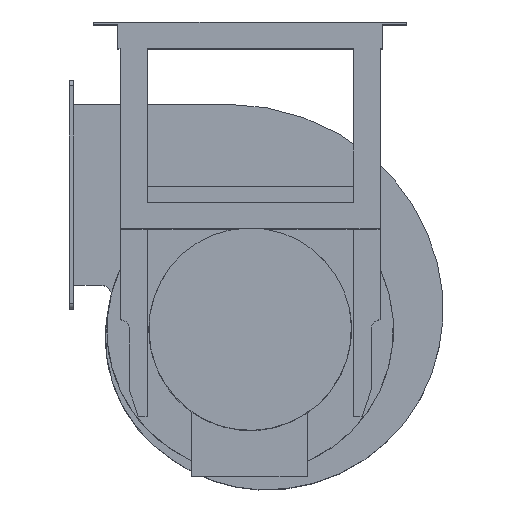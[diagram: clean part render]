
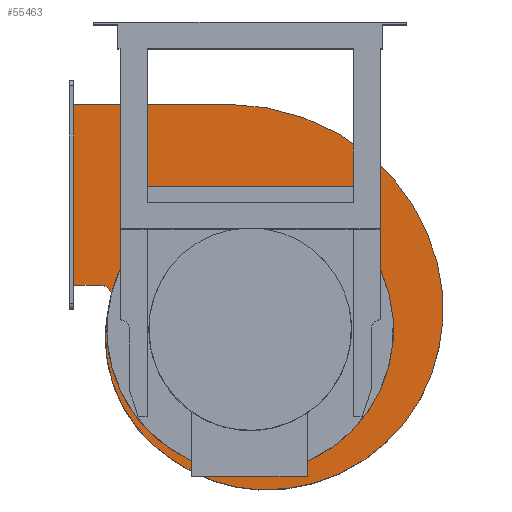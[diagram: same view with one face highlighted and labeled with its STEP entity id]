
A CAD part, top view. The second image highlights one B-rep face of the part: STEP entity #55463.
In plain terms, the highlighted planar face has unit normal (0, 0, 1).
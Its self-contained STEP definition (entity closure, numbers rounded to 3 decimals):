
#1458=CIRCLE('',#57948,8.);
#1459=CIRCLE('',#57951,20.);
#1460=CIRCLE('',#57954,20.);
#1461=CIRCLE('',#57957,8.);
#1462=CIRCLE('',#57959,160.);
#1463=CIRCLE('',#57960,160.);
#1465=CIRCLE('',#57963,11.);
#1467=CIRCLE('',#57966,161.986);
#1468=CIRCLE('',#57968,179.486);
#1470=CIRCLE('',#57971,197.486);
#1472=CIRCLE('',#57974,215.486);
#1474=CIRCLE('',#57977,232.986);
#1476=CIRCLE('',#57980,250.486);
#5744=PLANE('',#58041);
#8309=FACE_OUTER_BOUND('',#11860,.T.);
#11860=EDGE_LOOP('',(#52432,#52433,#52434,#52435,#52436,#52437,#52438,#52439,
#52440,#52441,#52442,#52443,#52444,#52445,#52446,#52447,#52448,#52449,#52450));
#12460=LINE('',#81865,#18764);
#18119=LINE('',#94021,#24423);
#18122=LINE('',#94029,#24426);
#18126=LINE('',#94038,#24430);
#18164=LINE('',#94210,#24468);
#18166=LINE('',#94213,#24470);
#18764=VECTOR('',#59094,10.);
#24423=VECTOR('',#69221,10.);
#24426=VECTOR('',#69230,10.);
#24430=VECTOR('',#69240,10.);
#24468=VECTOR('',#69448,10.);
#24470=VECTOR('',#69452,10.);
#26098=VERTEX_POINT('',#81862);
#26099=VERTEX_POINT('',#81864);
#30068=VERTEX_POINT('',#94004);
#30070=VERTEX_POINT('',#94007);
#30072=VERTEX_POINT('',#94014);
#30073=VERTEX_POINT('',#94015);
#30074=VERTEX_POINT('',#94020);
#30075=VERTEX_POINT('',#94024);
#30076=VERTEX_POINT('',#94028);
#30077=VERTEX_POINT('',#94032);
#30078=VERTEX_POINT('',#94036);
#30079=VERTEX_POINT('',#94040);
#30082=VERTEX_POINT('',#94051);
#30084=VERTEX_POINT('',#94057);
#30085=VERTEX_POINT('',#94061);
#30087=VERTEX_POINT('',#94067);
#30089=VERTEX_POINT('',#94073);
#30091=VERTEX_POINT('',#94079);
#30093=VERTEX_POINT('',#94085);
#31526=EDGE_CURVE('',#26098,#26099,#12460,.T.);
#37486=EDGE_CURVE('',#30072,#30073,#1458,.T.);
#37489=EDGE_CURVE('',#30074,#30073,#18119,.T.);
#37491=EDGE_CURVE('',#30075,#30074,#1459,.T.);
#37493=EDGE_CURVE('',#30076,#30075,#18122,.T.);
#37495=EDGE_CURVE('',#30077,#30076,#1460,.T.);
#37498=EDGE_CURVE('',#30078,#30077,#18126,.T.);
#37499=EDGE_CURVE('',#30078,#30079,#1461,.T.);
#37501=EDGE_CURVE('',#30068,#30079,#1462,.T.);
#37502=EDGE_CURVE('',#30072,#30070,#1463,.T.);
#37505=EDGE_CURVE('',#30068,#30082,#1465,.T.);
#37509=EDGE_CURVE('',#30084,#30070,#1467,.T.);
#37510=EDGE_CURVE('',#30085,#30084,#1468,.T.);
#37513=EDGE_CURVE('',#30087,#30085,#1470,.T.);
#37516=EDGE_CURVE('',#30089,#30087,#1472,.T.);
#37519=EDGE_CURVE('',#30091,#30089,#1474,.T.);
#37522=EDGE_CURVE('',#30093,#30091,#1476,.T.);
#37582=EDGE_CURVE('',#26099,#30093,#18164,.T.);
#37584=EDGE_CURVE('',#30082,#26098,#18166,.T.);
#52432=ORIENTED_EDGE('',*,*,#31526,.F.);
#52433=ORIENTED_EDGE('',*,*,#37584,.F.);
#52434=ORIENTED_EDGE('',*,*,#37505,.F.);
#52435=ORIENTED_EDGE('',*,*,#37501,.T.);
#52436=ORIENTED_EDGE('',*,*,#37499,.F.);
#52437=ORIENTED_EDGE('',*,*,#37498,.T.);
#52438=ORIENTED_EDGE('',*,*,#37495,.T.);
#52439=ORIENTED_EDGE('',*,*,#37493,.T.);
#52440=ORIENTED_EDGE('',*,*,#37491,.T.);
#52441=ORIENTED_EDGE('',*,*,#37489,.T.);
#52442=ORIENTED_EDGE('',*,*,#37486,.F.);
#52443=ORIENTED_EDGE('',*,*,#37502,.T.);
#52444=ORIENTED_EDGE('',*,*,#37509,.F.);
#52445=ORIENTED_EDGE('',*,*,#37510,.F.);
#52446=ORIENTED_EDGE('',*,*,#37513,.F.);
#52447=ORIENTED_EDGE('',*,*,#37516,.F.);
#52448=ORIENTED_EDGE('',*,*,#37519,.F.);
#52449=ORIENTED_EDGE('',*,*,#37522,.F.);
#52450=ORIENTED_EDGE('',*,*,#37582,.F.);
#55463=ADVANCED_FACE('',(#8309),#5744,.T.);
#57948=AXIS2_PLACEMENT_3D('',#94016,#69215,#69216);
#57951=AXIS2_PLACEMENT_3D('',#94025,#69225,#69226);
#57954=AXIS2_PLACEMENT_3D('',#94033,#69234,#69235);
#57957=AXIS2_PLACEMENT_3D('',#94041,#69243,#69244);
#57959=AXIS2_PLACEMENT_3D('',#94044,#69248,#69249);
#57960=AXIS2_PLACEMENT_3D('',#94045,#69250,#69251);
#57963=AXIS2_PLACEMENT_3D('',#94052,#69257,#69258);
#57966=AXIS2_PLACEMENT_3D('',#94059,#69265,#69266);
#57968=AXIS2_PLACEMENT_3D('',#94062,#69269,#69270);
#57971=AXIS2_PLACEMENT_3D('',#94068,#69276,#69277);
#57974=AXIS2_PLACEMENT_3D('',#94074,#69283,#69284);
#57977=AXIS2_PLACEMENT_3D('',#94080,#69290,#69291);
#57980=AXIS2_PLACEMENT_3D('',#94086,#69297,#69298);
#58041=AXIS2_PLACEMENT_3D('',#94212,#69450,#69451);
#59094=DIRECTION('',(0.,1.,0.));
#69215=DIRECTION('center_axis',(0.,0.,-1.));
#69216=DIRECTION('ref_axis',(-0.977,-0.211,0.));
#69221=DIRECTION('',(0.,-1.,0.));
#69225=DIRECTION('center_axis',(0.,0.,-1.));
#69226=DIRECTION('ref_axis',(0.,1.,0.));
#69230=DIRECTION('',(1.,0.,0.));
#69234=DIRECTION('center_axis',(0.,0.,-1.));
#69235=DIRECTION('ref_axis',(-1.,0.,0.));
#69240=DIRECTION('',(0.,1.,0.));
#69243=DIRECTION('center_axis',(0.,0.,-1.));
#69244=DIRECTION('ref_axis',(0.977,-0.211,0.));
#69248=DIRECTION('center_axis',(0.,0.,-1.));
#69249=DIRECTION('ref_axis',(-1.,0.,0.));
#69250=DIRECTION('center_axis',(0.,0.,-1.));
#69251=DIRECTION('ref_axis',(-1.,0.,0.));
#69257=DIRECTION('center_axis',(0.,0.,
1.));
#69258=DIRECTION('ref_axis',(0.798,0.603,0.));
#69265=DIRECTION('center_axis',(0.,0.,
-1.));
#69266=DIRECTION('ref_axis',(-0.933,0.36,0.));
#69269=DIRECTION('center_axis',(0.,0.,
-1.));
#69270=DIRECTION('ref_axis',(-0.582,-0.813,0.));
#69276=DIRECTION('center_axis',(0.,0.,
-1.));
#69277=DIRECTION('ref_axis',(-0.043,-0.999,0.));
#69283=DIRECTION('center_axis',(0.,0.,
-1.));
#69284=DIRECTION('ref_axis',(0.881,-0.473,0.));
#69290=DIRECTION('center_axis',(0.,0.,
-1.));
#69291=DIRECTION('ref_axis',(0.995,0.1,0.));
#69297=DIRECTION('center_axis',(0.,0.,
-1.));
#69298=DIRECTION('ref_axis',(0.641,0.767,0.));
#69448=DIRECTION('',(1.,0.,0.));
#69450=DIRECTION('center_axis',(0.,0.,
1.));
#69451=DIRECTION('ref_axis',(-1.,0.,0.));
#69452=DIRECTION('',(-1.,0.,0.));
#81862=CARTESIAN_POINT('',(-197.,49.691,0.));
#81864=CARTESIAN_POINT('',(-197.,251.691,0.));
#81865=CARTESIAN_POINT('',(-197.,251.691,0.));
#94004=CARTESIAN_POINT('',(-155.076,39.387,0.));
#94007=CARTESIAN_POINT('',(-157.768,26.629,0.));
#94014=CARTESIAN_POINT('',(145.714,66.086,0.));
#94015=CARTESIAN_POINT('',(145.,69.39,0.));
#94016=CARTESIAN_POINT('Origin',(153.,69.39,0.));
#94020=CARTESIAN_POINT('',(145.,140.,0.));
#94021=CARTESIAN_POINT('',(145.,140.,0.));
#94024=CARTESIAN_POINT('',(125.,160.,0.));
#94025=CARTESIAN_POINT('Origin',(125.,140.,0.));
#94028=CARTESIAN_POINT('',(-125.,160.,0.));
#94029=CARTESIAN_POINT('',(0.,160.,0.));
#94032=CARTESIAN_POINT('',(-145.,140.,0.));
#94033=CARTESIAN_POINT('Origin',(-125.,140.,0.));
#94036=CARTESIAN_POINT('',(-145.,69.39,0.));
#94038=CARTESIAN_POINT('',(-145.,67.639,0.));
#94040=CARTESIAN_POINT('',(-145.714,66.086,0.));
#94041=CARTESIAN_POINT('Origin',(-153.,69.39,0.));
#94044=CARTESIAN_POINT('Origin',(0.,0.,0.));
#94045=CARTESIAN_POINT('Origin',(0.,0.,0.));
#94051=CARTESIAN_POINT('',(-166.054,49.691,0.));
#94052=CARTESIAN_POINT('Origin',(-166.054,38.691,0.));
#94057=CARTESIAN_POINT('',(-86.655,-145.275,0.));
#94059=CARTESIAN_POINT('Origin',(0.334,-8.628,0.));
#94061=CARTESIAN_POINT('',(8.731,-178.6,0.));
#94062=CARTESIAN_POINT('Origin',(17.843,0.655,0.));
#94067=CARTESIAN_POINT('',(189.905,-77.285,0.));
#94068=CARTESIAN_POINT('Origin',(17.314,18.7,0.));
#94073=CARTESIAN_POINT('',(214.914,40.238,0.));
#94074=CARTESIAN_POINT('Origin',(0.,24.55,
0.));
#94079=CARTESIAN_POINT('',(135.221,193.37,0.));
#94080=CARTESIAN_POINT('Origin',(-16.9,16.9,0.));
#94085=CARTESIAN_POINT('',(-25.451,251.691,0.));
#94086=CARTESIAN_POINT('Origin',(-25.451,1.204,0.));
#94210=CARTESIAN_POINT('',(-25.451,251.691,0.));
#94212=CARTESIAN_POINT('Origin',(-8.565,52.511,0.));
#94213=CARTESIAN_POINT('',(-197.,49.691,0.));
